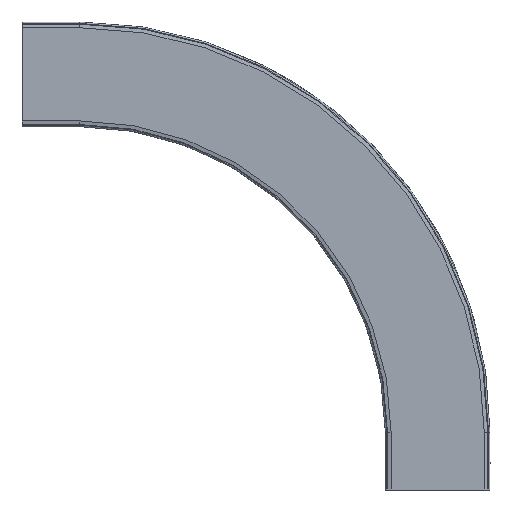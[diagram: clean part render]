
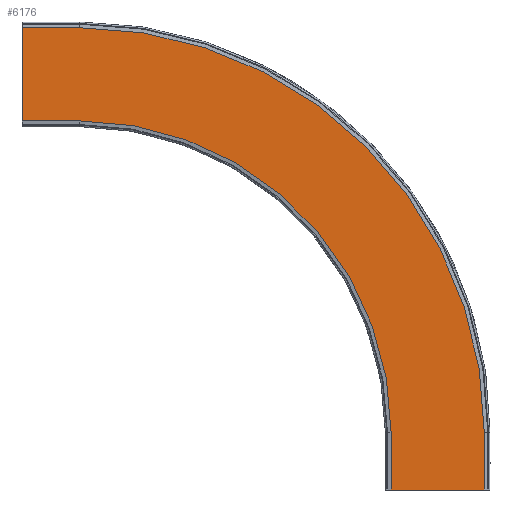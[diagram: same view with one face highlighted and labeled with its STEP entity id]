
A CAD part, front view. The second image highlights one B-rep face of the part: STEP entity #6176.
In plain terms, the highlighted planar face has unit normal (0, -1, 0).
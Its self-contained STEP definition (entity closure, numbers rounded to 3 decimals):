
#5933=CARTESIAN_POINT('',(104.,-74.,0.0));
#5934=VERTEX_POINT('',#5933);
#5941=CARTESIAN_POINT('',(-26.,-74.,0.0));
#5942=VERTEX_POINT('',#5941);
#5943=CARTESIAN_POINT('',(-26.,-74.,0.0));
#5944=DIRECTION('',(1.0,0.0,0.0));
#5945=VECTOR('',#5944,130.);
#5946=LINE('',#5943,#5945);
#5947=EDGE_CURVE('',#5942,#5934,#5946,.T.);
#6002=CARTESIAN_POINT('',(-26.,-74.,80.0));
#6003=VERTEX_POINT('',#6002);
#6012=CARTESIAN_POINT('',(-26.,-74.,0.0));
#6013=DIRECTION('',(0.0,0.0,1.0));
#6014=VECTOR('',#6013,80.0);
#6015=LINE('',#6012,#6014);
#6016=EDGE_CURVE('',#5942,#6003,#6015,.T.);
#6026=CARTESIAN_POINT('',(104.,-74.,80.0));
#6027=VERTEX_POINT('',#6026);
#6036=CARTESIAN_POINT('',(104.,-74.,0.0));
#6037=DIRECTION('',(0.0,0.0,1.0));
#6038=VECTOR('',#6037,80.0);
#6039=LINE('',#6036,#6038);
#6040=EDGE_CURVE('',#5934,#6027,#6039,.T.);
#6059=CARTESIAN_POINT('',(-461.,-74.,515.));
#6060=VERTEX_POINT('',#6059);
#6075=CARTESIAN_POINT('',(-461.,-74.,80.0));
#6076=DIRECTION('',(0.0,-1.0,0.0));
#6077=DIRECTION('',(1.0,0.0,0.0));
#6078=AXIS2_PLACEMENT_3D('',#6075,#6076,#6077);
#6079=CIRCLE('',#6078,435.);
#6080=EDGE_CURVE('',#6003,#6060,#6079,.T.);
#6134=CARTESIAN_POINT('',(404.398,-74.,645.));
#6135=DIRECTION('',(0.0,-1.0,0.0));
#6136=DIRECTION('',(1.0,0.0,0.0));
#6137=AXIS2_PLACEMENT_3D('',#6134,#6135,#6136);
#6138=PLANE('',#6137);
#6139=CARTESIAN_POINT('',(-541.,-74.,645.));
#6140=VERTEX_POINT('',#6139);
#6141=CARTESIAN_POINT('',(-541.,-74.,515.));
#6142=VERTEX_POINT('',#6141);
#6143=CARTESIAN_POINT('',(-541.,-74.,645.));
#6144=DIRECTION('',(0.0,0.0,-1.0));
#6145=VECTOR('',#6144,130.);
#6146=LINE('',#6143,#6145);
#6147=EDGE_CURVE('',#6140,#6142,#6146,.T.);
#6148=ORIENTED_EDGE('',*,*,#6147,.T.);
#6149=CARTESIAN_POINT('',(-461.,-74.,515.));
#6150=DIRECTION('',(-1.0,0.0,0.0));
#6151=VECTOR('',#6150,80.);
#6152=LINE('',#6149,#6151);
#6153=EDGE_CURVE('',#6060,#6142,#6152,.T.);
#6154=ORIENTED_EDGE('',*,*,#6153,.F.);
#6155=ORIENTED_EDGE('',*,*,#6080,.F.);
#6156=ORIENTED_EDGE('',*,*,#6016,.F.);
#6157=ORIENTED_EDGE('',*,*,#5947,.T.);
#6158=ORIENTED_EDGE('',*,*,#6040,.T.);
#6159=CARTESIAN_POINT('',(-461.,-74.,645.));
#6160=VERTEX_POINT('',#6159);
#6161=CARTESIAN_POINT('',(-461.,-74.,80.0));
#6162=DIRECTION('',(0.0,-1.0,0.0));
#6163=DIRECTION('',(1.0,0.0,0.0));
#6164=AXIS2_PLACEMENT_3D('',#6161,#6162,#6163);
#6165=CIRCLE('',#6164,565.);
#6166=EDGE_CURVE('',#6027,#6160,#6165,.T.);
#6167=ORIENTED_EDGE('',*,*,#6166,.T.);
#6168=CARTESIAN_POINT('',(-461.,-74.,645.));
#6169=DIRECTION('',(-1.0,0.0,0.0));
#6170=VECTOR('',#6169,80.);
#6171=LINE('',#6168,#6170);
#6172=EDGE_CURVE('',#6160,#6140,#6171,.T.);
#6173=ORIENTED_EDGE('',*,*,#6172,.T.);
#6174=EDGE_LOOP('',(#6148,#6154,#6155,#6156,#6157,#6158,#6167,#6173));
#6175=FACE_OUTER_BOUND('',#6174,.T.);
#6176=ADVANCED_FACE('',(#6175),#6138,.T.);
